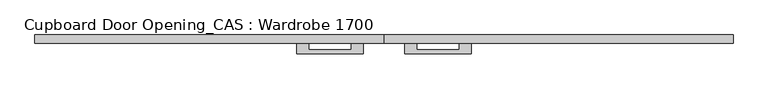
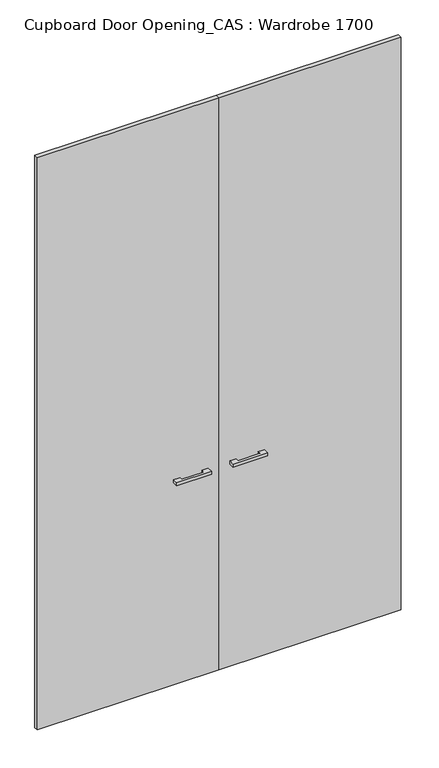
"""IFC4 building model written with IfcOpenShell, lengths in millimetres: furniture geometry, Cupboard Door Opening_CAS : Wardrobe 1700."""

import ifcopenshell
import ifcopenshell.guid

model = None  # the IFC model being written
_history = None  # IfcOwnerHistory: only IFC2X3 demands one
_inside = {}  # id of a spatial element -> (the spatial element, [elements in it])
_under = {}  # id of a project, library or spatial element -> (it, [spatial elements below it])
_declared = {}  # id of a project -> (the project, [libraries it declares])
_typed = {}  # id of a type object -> (the type object, [elements of that type])
_made_of = {}  # id of a material, layer set ... -> (it, [elements and type objects made of it])


def new_model(schema):
    """Start an empty IFC model of exactly this schema.

    Asked for "IFC4X3", IfcOpenShell would pick the latest addendum, in which some entities
    have other attributes; the version numbers below select the first issue.
    IFC2X3 requires an IfcOwnerHistory on every rooted entity: one is made here for all.
    """
    global model, _history
    if schema == "IFC4X3":
        model = ifcopenshell.file(schema_version=(4, 3, 0, 0))
    else:
        model = ifcopenshell.file(schema=schema)
    _inside.clear()
    _under.clear()
    _declared.clear()
    _typed.clear()
    _made_of.clear()
    _history = None
    if model.schema == "IFC2X3":
        org = make("IfcOrganization", Name="unknown")
        user = make(
            "IfcPersonAndOrganization",
            ThePerson=make("IfcPerson", FamilyName="unknown"),
            TheOrganization=org,
        )
        app = make(
            "IfcApplication",
            ApplicationDeveloper=org,
            Version="unknown",
            ApplicationFullName="unknown",
            ApplicationIdentifier="unknown",
        )
        _history = make(
            "IfcOwnerHistory",
            OwningUser=user,
            OwningApplication=app,
            ChangeAction="ADDED",
            CreationDate=0,
        )
    return model


def make(cls, **values):
    """One entity of the class cls with the attributes given. An attribute that is None is left unset."""
    return model.create_entity(
        cls, **{name: value for name, value in values.items() if value is not None}
    )


def rooted(cls, **values):
    """An entity with a GlobalId (a new one), such as an element, a storey or a relation."""
    return make(cls, GlobalId=ifcopenshell.guid.new(), OwnerHistory=_history, **values)


def si_unit(unit_type, name, prefix=None):
    """IfcSIUnit, for example si_unit("LENGTHUNIT", "METRE", prefix="MILLI")."""
    return make("IfcSIUnit", UnitType=unit_type, Prefix=prefix, Name=name)


def assignment(units):
    """IfcUnitAssignment: the units of a project."""
    return None if units is None else make("IfcUnitAssignment", Units=units)


def point(xyz):
    """IfcCartesianPoint."""
    return None if xyz is None else make("IfcCartesianPoint", Coordinates=xyz)


def direction(xyz):
    """IfcDirection."""
    return None if xyz is None else make("IfcDirection", DirectionRatios=xyz)


def frame(location, z_axis=None, x_axis=None):
    """IfcAxis2Placement3D, a coordinate frame: its origin and axes. An axis left out is left unset."""
    return make(
        "IfcAxis2Placement3D",
        Location=point(location),
        Axis=direction(z_axis),
        RefDirection=direction(x_axis),
    )


def origin():
    """The frame at (0, 0, 0) with its axes left unset."""
    return frame((0.0, 0.0, 0.0))


def origin_with_axes():
    """The frame at (0, 0, 0) with the z axis (0, 0, 1) and the x axis (1, 0, 0) written out."""
    return frame((0.0, 0.0, 0.0), z_axis=(0.0, 0.0, 1.0), x_axis=(1.0, 0.0, 0.0))


def place(relative_to, where):
    """IfcLocalPlacement: puts the frame where relative to a parent placement (None: the world)."""
    return make(
        "IfcLocalPlacement", PlacementRelTo=relative_to, RelativePlacement=where
    )


def context(
    kind, dimensions, precision=None, world=None, true_north=None, identifier=None
):
    """IfcGeometricRepresentationContext, for example the 3D "Model" context."""
    return make(
        "IfcGeometricRepresentationContext",
        ContextIdentifier=identifier,
        ContextType=kind,
        CoordinateSpaceDimension=dimensions,
        Precision=precision,
        WorldCoordinateSystem=world,
        TrueNorth=true_north,
    )


def project(units=None, contexts=None):
    """IfcProject with its units and contexts."""
    return rooted(
        "IfcProject",
        Name="project",
        RepresentationContexts=contexts,
        UnitsInContext=assignment(units),
    )


def spatial(cls, under=None, at=None, **own):
    """A site, building, storey or space (cls), placed at a placement, below another one or the project."""
    s = rooted(cls, ObjectPlacement=at, **own)
    if under is not None:
        _under.setdefault(under.id(), (under, []))[1].append(s)
    return s


def polyline(points):
    """IfcPolyline through the points."""
    return make("IfcPolyline", Points=[point(p) for p in points])


def outline(outer, holes=None, kind="AREA"):
    """IfcArbitraryClosedProfileDef: a profile drawn as a closed curve; with holes, ...WithVoids."""
    if holes is None:
        return make("IfcArbitraryClosedProfileDef", ProfileType=kind, OuterCurve=outer)
    return make(
        "IfcArbitraryProfileDefWithVoids",
        ProfileType=kind,
        OuterCurve=outer,
        InnerCurves=holes,
    )


def extrude(swept, where, along, depth):
    """IfcExtrudedAreaSolid: the profile swept, set in the frame where, extruded along a direction by depth."""
    return make(
        "IfcExtrudedAreaSolid",
        SweptArea=swept,
        Position=where,
        ExtrudedDirection=direction(along),
        Depth=depth,
    )


def shape(context_of_items, identifier, shape_type, items):
    """IfcShapeRepresentation: the items that make up one representation, for example the "Body"."""
    return make(
        "IfcShapeRepresentation",
        ContextOfItems=context_of_items,
        RepresentationIdentifier=identifier,
        RepresentationType=shape_type,
        Items=items,
    )


def source(mapping_origin, context_of_items, identifier, shape_type, items):
    """IfcRepresentationMap: a shape defined once, which mapped items show again and again."""
    return make(
        "IfcRepresentationMap",
        MappingOrigin=mapping_origin,
        MappedRepresentation=shape(context_of_items, identifier, shape_type, items),
    )


def transform(
    local_origin,
    x_axis=None,
    y_axis=None,
    z_axis=None,
    scale=None,
    scale2=None,
    scale3=None,
    uniform=True,
):
    """IfcCartesianTransformationOperator3D, or its non-uniform kind. x_axis, y_axis, z_axis: its Axis1, 2, 3."""
    if uniform:
        return make(
            "IfcCartesianTransformationOperator3D",
            Axis1=direction(x_axis),
            Axis2=direction(y_axis),
            LocalOrigin=point(local_origin),
            Scale=scale,
            Axis3=direction(z_axis),
        )
    return make(
        "IfcCartesianTransformationOperator3DnonUniform",
        Axis1=direction(x_axis),
        Axis2=direction(y_axis),
        LocalOrigin=point(local_origin),
        Scale=scale,
        Axis3=direction(z_axis),
        Scale2=scale2,
        Scale3=scale3,
    )


def mapped(mapping_source, mapping_target):
    """IfcMappedItem: shows the shape of a source again, moved by a transform."""
    return make(
        "IfcMappedItem", MappingSource=mapping_source, MappingTarget=mapping_target
    )


def made_of(thing, what):
    """Note that an element or type object is made of a material, layer set ...; save() writes the relation."""
    if what is not None:
        _made_of.setdefault(what.id(), (what, []))[1].append(thing)
    return thing


def element(
    cls,
    number,
    at=None,
    inside=None,
    cuts=None,
    type_object=None,
    material=None,
    context=None,
    identifier="Body",
    shape_type=None,
    held_by="IfcProductDefinitionShape",
    body=None,
    shapes=None,
    **own,
):
    """One element of the class cls, such as IfcWall. Its Tag is "e" and its number.

    at: its placement. inside: the storey or other place that contains it. cuts: it is an
    opening in that element (IfcRelVoidsElement). A single representation is given by context,
    identifier, shape_type and body (its items); several are given by shapes. held_by: the class
    of the entity that holds the representations. save() writes the other relations.
    """
    e = rooted(cls, Tag="e%d" % number, ObjectPlacement=at, **own)
    if body is not None:
        shapes = [shape(context, identifier, shape_type, body)]
    if shapes is not None:
        e.Representation = make(held_by, Representations=shapes)
    if inside is not None:
        _inside.setdefault(inside.id(), (inside, []))[1].append(e)
    if cuts is not None:
        rooted(
            "IfcRelVoidsElement", RelatingBuildingElement=cuts, RelatedOpeningElement=e
        )
    if type_object is not None:
        _typed.setdefault(type_object.id(), (type_object, []))[1].append(e)
    return made_of(e, material)


def aggregate(whole, parts):
    """IfcRelAggregates: a whole, such as a stair, and the parts it consists of."""
    return rooted("IfcRelAggregates", RelatingObject=whole, RelatedObjects=parts)


def save(model, path):
    """Write the relations noted so far, then the file.

    IfcRelAggregates (storeys below a building ...), IfcRelContainedInSpatialStructure (elements
    in a storey), IfcRelDefinesByType, IfcRelAssociatesMaterial and IfcRelDeclares: one each for
    every whole, place, type object, material and project.
    """
    for whole, parts in _under.values():
        aggregate(whole, parts)
    for where, things in _inside.values():
        rooted(
            "IfcRelContainedInSpatialStructure",
            RelatedElements=things,
            RelatingStructure=where,
        )
    for kind, things in _typed.values():
        rooted("IfcRelDefinesByType", RelatedObjects=things, RelatingType=kind)
    for what, things in _made_of.values():
        rooted("IfcRelAssociatesMaterial", RelatedObjects=things, RelatingMaterial=what)
    for by, libraries in _declared.values():
        rooted("IfcRelDeclares", RelatingContext=by, RelatedDefinitions=libraries)
    model.write(path)


def cupboard_door_opening_cas_wardrobe_1700_3f97a3d0(model_context):
    return source(origin(), model_context, "Body", "SweptSolid", [
        extrude(outline(polyline([(175.0, -84.0), (175.0, -59.0), (204.0, -59.0), (204.0, -74.0), (306.0, -74.0), (306.0, -59.0), (335.0, -59.0), (335.0, -84.0), (175.0, -84.0)])), frame((0.0, 0.0, 987.5), z_axis=(0.0, 0.0, 1.0), x_axis=(1.0, 0.0, 0.0)), (0.0, 0.0, 1.0), 15.0),
        extrude(outline(polyline([(965.0, -59.0), (125.0, -59.0), (125.0, -39.0), (965.0, -39.0), (965.0, -59.0)])), origin_with_axes(), (0.0, 0.0, 1.0), 2795.0),
        extrude(outline(polyline([(75.0, -84.0), (-85.0, -84.0), (-85.0, -59.0), (-56.0, -59.0), (-56.0, -74.0), (46.0, -74.0), (46.0, -59.0), (75.0, -59.0), (75.0, -84.0)])), frame((0.0, 0.0, 987.5), z_axis=(0.0, 0.0, 1.0), x_axis=(1.0, 0.0, 0.0)), (0.0, 0.0, 1.0), 15.0),
        extrude(outline(polyline([(-715.0, -59.0), (-715.0, -39.0), (125.0, -39.0), (125.0, -59.0), (-715.0, -59.0)])), origin_with_axes(), (0.0, 0.0, 1.0), 2795.0),
    ])


if __name__ == "__main__":
    model = new_model("IFC4")
    model_context = context("Model", 3, world=origin())
    ifc_project = project(units=[si_unit("LENGTHUNIT", "METRE", prefix="MILLI")], contexts=[model_context])
    site = spatial("IfcSite", under=ifc_project)
    building = spatial("IfcBuilding", under=site)
    placement = place(None, origin())
    cupboard_door_opening_cas_wardrobe_1700_shape = cupboard_door_opening_cas_wardrobe_1700_3f97a3d0(model_context)
    element("IfcFurniture", 1, ObjectType="Cupboard Door Opening_CAS : Wardrobe 1700", at=placement, inside=building, context=model_context, shape_type="MappedRepresentation", body=[
        mapped(cupboard_door_opening_cas_wardrobe_1700_shape, transform((0.0, 0.0, 0.0), x_axis=(1.0, 0.0, 0.0), y_axis=(0.0, 1.0, 0.0), z_axis=(0.0, 0.0, 1.0))),
    ])
    save(model, "model.ifc")
